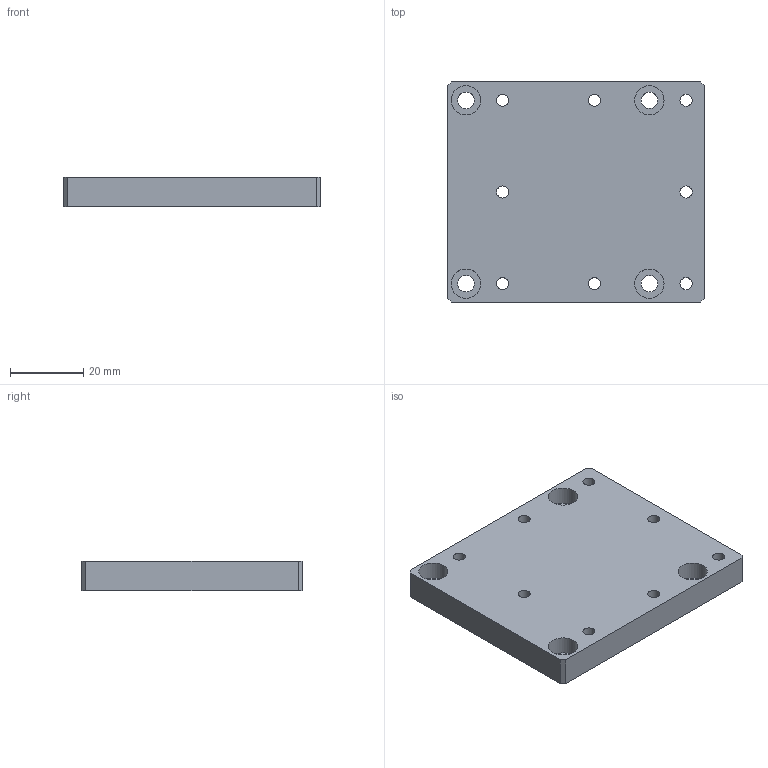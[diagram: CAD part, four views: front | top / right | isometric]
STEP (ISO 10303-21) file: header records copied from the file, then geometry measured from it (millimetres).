
FILE_DESCRIPTION( ( 'STEP AP203' ), '1' );
FILE_NAME( 'C:/3D-Trans/3D_A49-12+071218.stp', '2007-12-18T05:03:25', ( ' ' ), ( ' ' ), 'XStep 1.0', ' ', ' ' );
FILE_SCHEMA( ( 'CONFIG_CONTROL_DESIGN' ) );
Length unit declared in the file: millimetre
Products named in the file (1): 1
Bounding box: 70 x 60 x 8 mm (x, y, z)
Volume: 31840.4 mm3; surface area: 11529 mm2
Topology: 1 solids, 1 shells, 30 faces, 76 edges, 52 vertices
Faces by surface type: cylinder 16, plane 14
Full cylindrical faces by diameter (mm): 3.3 x8, 4.5 x4, 8 x4
Entity records: 900 total; most frequent: DIRECTION 150, CARTESIAN_POINT 135, ORIENTED_EDGE 112, EDGE_LOOP 74, AXIS2_PLACEMENT_3D 63, EDGE_CURVE 56, VERTEX_POINT 48, FACE_OUTER_BOUND 46
